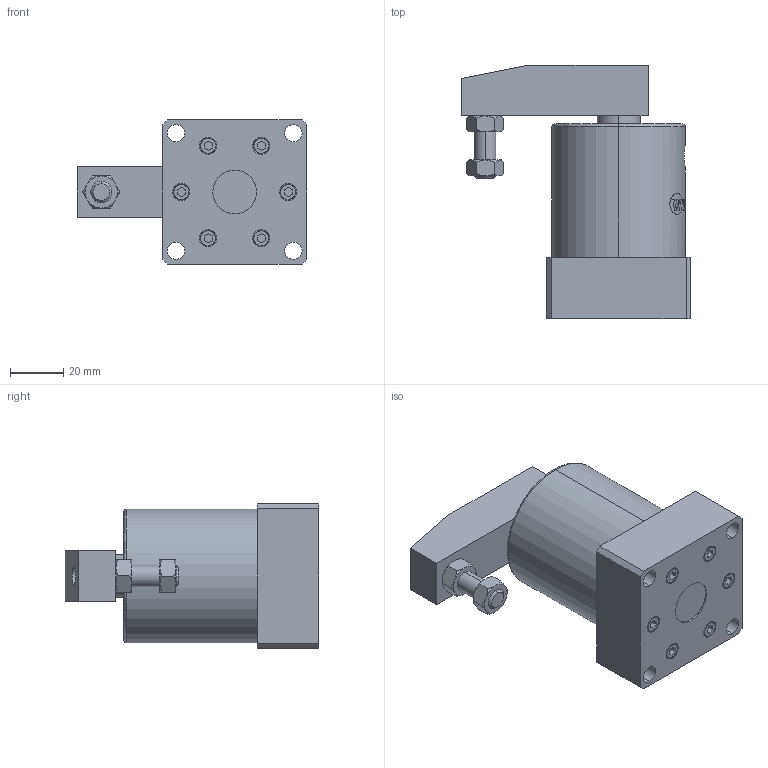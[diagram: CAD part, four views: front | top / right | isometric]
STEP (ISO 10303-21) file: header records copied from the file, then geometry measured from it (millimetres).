
FILE_DESCRIPTION (( 'STEP AP214' ), '1' );
FILE_NAME ('WCK-032 (MDMY).STEP', '2017-01-27T13:36:08', ( 'Hidtek' ), ( '' ), 'SwSTEP 2.0', 'SolidWorks 2016', '' );
FILE_SCHEMA (( 'AUTOMOTIVE_DESIGN' ));
Length unit declared in the file: millimetre
Products named in the file (3): WCK-032_b; WCK-032_r; WCK-032 (MDMY)
Assembly tree (2 placements, depth 2):
  WCK-032 (MDMY)
    WCK-032_b
    WCK-032_r
Bounding box: 86 x 95 x 54 mm (x, y, z)
Volume: 171135.2 mm3; surface area: 39557.3 mm2
Topology: 2 solids, 2 shells, 299 faces, 715 edges, 458 vertices
Faces by surface type: plane 174, cylinder 73, cone 38, bspline 14
Entity records: 10726 total; most frequent: CARTESIAN_POINT 2449, ORIENTED_EDGE 1422, DIRECTION 1399, EDGE_CURVE 711, AXIS2_PLACEMENT_3D 528, VERTEX_POINT 458, EDGE_LOOP 349, LINE 343
